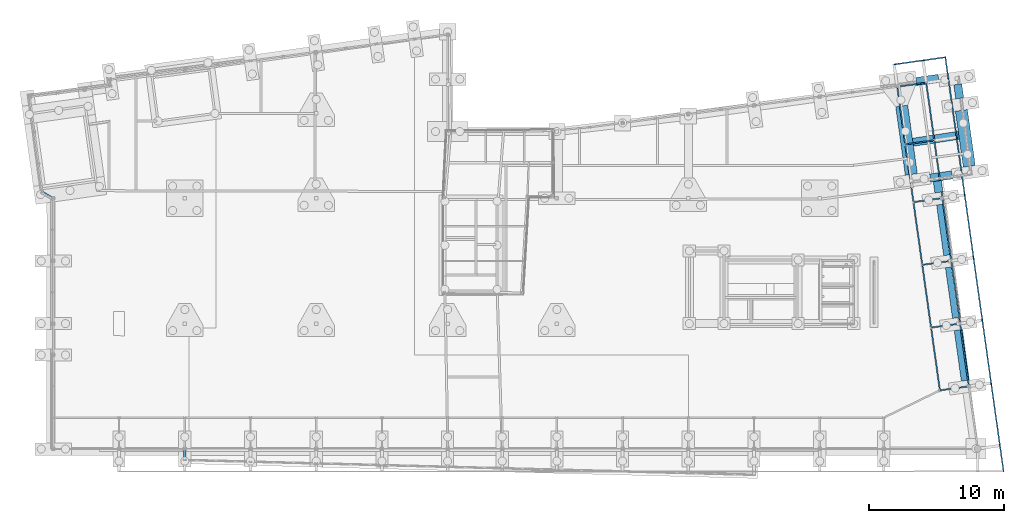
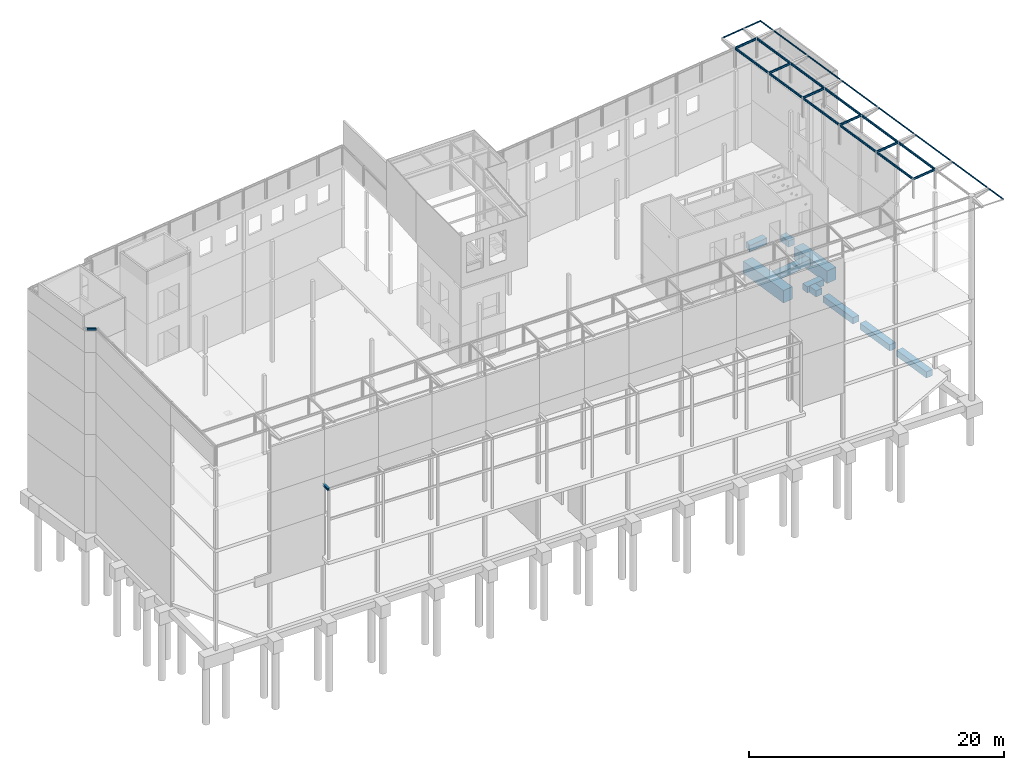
# One storey, part 65 of 82: 38 beams.
"""IFC2X3 building model written with IfcOpenShell, lengths in millimetres."""

from ifc_helpers import new_model, si_unit, frame, frame_2d, origin_with_axes, place, context, subcontext, project, spatial, polyline, rectangle, i_section, u_section, outline, extrude, boolean, clip, halfspace, material, type_object, element, save


model = new_model("IFC2X3")

# Units and contexts
model_context = context("Model", 3, precision=1e-05, world=origin_with_axes())
body_context = subcontext(model_context, "Body", "Model", "MODEL_VIEW")
ifc_project = project(units=[si_unit("LENGTHUNIT", "METRE", prefix="MILLI"), si_unit("AREAUNIT", "SQUARE_METRE"), si_unit("VOLUMEUNIT", "CUBIC_METRE"), si_unit("MASSUNIT", "GRAM", prefix="KILO"), si_unit("TIMEUNIT", "SECOND"), si_unit("PLANEANGLEUNIT", "RADIAN"), si_unit("SOLIDANGLEUNIT", "STERADIAN"), si_unit("THERMODYNAMICTEMPERATUREUNIT", "DEGREE_CELSIUS"), si_unit("LUMINOUSINTENSITYUNIT", "LUMEN")], contexts=[model_context])

# Site, building, storey
site_placement = place(None, origin_with_axes())
site = spatial("IfcSite", under=ifc_project, at=site_placement, Name="Undefined", CompositionType="ELEMENT")
building_placement = place(site_placement, origin_with_axes())
building = spatial("IfcBuilding", under=site, at=building_placement, Name="Undefined", CompositionType="ELEMENT")
storey_placement = place(building_placement, origin_with_axes())
storey = spatial("IfcBuildingStorey", under=building, at=storey_placement, Name="Undefined", CompositionType="ELEMENT", Elevation=0.0)

# Beams
ifc_material_1 = material(Name="STEEL/S275JR")
beam_type_1 = type_object("IfcBeamType", Name="IPE200", PredefinedType="NOTDEFINED")
for number, where, z_axis, x_axis, name in (
    (1, (67257.635058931, 9305.1416014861, 19025.0), (0.0, 0.0, 1.0), (-0.13917310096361, 0.990268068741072, 0.0), "POUTRE"),
    (2, (67911.748633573, 4650.88167839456, 19025.0), (0.0, 0.0, 1.0), (-0.13917310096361, 0.990268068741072, 0.0), "POUTRE"),
):
    element("IfcBeam", number, at=place(storey_placement, frame(where, z_axis=z_axis, x_axis=x_axis)), inside=storey, type_object=beam_type_1, material=ifc_material_1, Name=name, ObjectType="IPE200", context=body_context, shape_type="SweptSolid", body=[
        extrude(i_section(OverallWidth=100.0, OverallDepth=200.0, WebThickness=5.599999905, FlangeThickness=8.5, FilletRadius=12.0, at=frame_2d((5.17284206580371e-08, 4.49290382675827e-10), x_axis=(1.0, 0.0))), frame((4620.00451002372, 0.0, 0.0), z_axis=(-1.0, 0.0, 0.0), x_axis=(-2.77555756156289e-17, -1.0, 0.0)), (0.0, 0.0, 1.0), 4540.0),
    ])
for number, where, z_axis, x_axis, name in (
    (3, (65348.0399256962, 22892.6164616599, 19025.0), (0.0, 0.0, 1.0), (-0.13917310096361, 0.990268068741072, 0.0), "POUTRE"),
    (4, (63199.1574547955, 22590.6061705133, 19025.0), (0.0, 0.0, 1.0), (-0.13917310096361, 0.990268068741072, 0.0), "POUTRE"),
):
    element("IfcBeam", number, at=place(storey_placement, frame(where, z_axis=z_axis, x_axis=x_axis)), inside=storey, type_object=beam_type_1, material=ifc_material_1, Name=name, ObjectType="IPE200", context=body_context, shape_type="SweptSolid", body=[
        extrude(i_section(OverallWidth=100.0, OverallDepth=200.0, WebThickness=5.599999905, FlangeThickness=8.5, FilletRadius=12.0, at=frame_2d((5.17284206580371e-08, 4.49290382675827e-10), x_axis=(1.0, 0.0))), frame((4316.99774502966, 0.0, 0.0), z_axis=(-1.0, 0.0, 0.0), x_axis=(-2.77555756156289e-17, -1.0, 0.0)), (0.0, 0.0, 1.0), 4237.0),
    ])
beam_1_placement = place(storey_placement, frame((65348.0386537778, 22892.6117285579, 19025.0300000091), z_axis=(-1.36899999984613e-05, -1.92399999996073e-06, 0.999999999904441), x_axis=(-0.990268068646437, -0.13917310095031, -1.38249999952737e-05)))
element("IfcBeam", 5, at=beam_1_placement, inside=storey, type_object=beam_type_1, material=ifc_material_1, Name="POUTRE", ObjectType="IPE200", context=body_context, shape_type="SweptSolid", body=[
    extrude(i_section(OverallWidth=100.0, OverallDepth=200.0, WebThickness=5.599999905, FlangeThickness=8.5, FilletRadius=12.0, at=frame_2d((5.17284206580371e-08, 4.49290382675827e-10), x_axis=(1.0, 0.0))), frame((2166.00138246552, 1.75969470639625e-12, -3.63797513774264e-12), z_axis=(-1.0, 0.0, 0.0), x_axis=(-2.77555756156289e-17, -1.0, 0.0)), (0.0, 0.0, 1.0), 2162.0),
])
beam_2_placement = place(storey_placement, frame((64746.6741588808, 27171.5581242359, 19025.0300000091), z_axis=(-1.36899999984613e-05, -1.92399999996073e-06, 0.999999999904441), x_axis=(-0.990268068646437, -0.13917310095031, -1.38249999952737e-05)))
element("IfcBeam", 6, at=beam_2_placement, inside=storey, type_object=beam_type_1, material=ifc_material_1, Name="POUTRE", ObjectType="IPE200", context=body_context, shape_type="SweptSolid", body=[
    extrude(i_section(OverallWidth=100.0, OverallDepth=200.0, WebThickness=5.599999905, FlangeThickness=8.5, FilletRadius=12.0, at=frame_2d((5.17284206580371e-08, 4.49290382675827e-10), x_axis=(1.0, 0.0))), frame((2090.00138243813, -5.72141829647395e-14, -3.54060006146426e-18), z_axis=(-1.0, 0.0, 0.0), x_axis=(-2.77555756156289e-17, -1.0, 0.0)), (0.0, 0.0, 1.0), 2010.0),
])
beam_3_placement = place(storey_placement, frame((63800.5247376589, 18311.6556129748, 19025.0), z_axis=(0.0, 0.0, 1.0), x_axis=(-0.13917310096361, 0.990268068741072, 0.0)))
element("IfcBeam", 7, at=beam_3_placement, inside=storey, type_object=beam_type_1, material=ifc_material_1, Name="POUTRE", ObjectType="IPE200", context=body_context, shape_type="SweptSolid", body=[
    extrude(i_section(OverallWidth=100.0, OverallDepth=200.0, WebThickness=5.599999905, FlangeThickness=8.5, FilletRadius=12.0, at=frame_2d((5.17284206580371e-08, 4.49290382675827e-10), x_axis=(1.0, 0.0))), frame((4241.00225446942, 0.0, 0.0), z_axis=(-1.0, 0.0, 0.0), x_axis=(-2.77555756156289e-17, -1.0, 0.0)), (0.0, 0.0, 1.0), 4161.0),
])
beam_4_placement = place(storey_placement, frame((65949.4079097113, 18613.6614476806, 19025.0), z_axis=(0.0, 0.0, 1.0), x_axis=(-0.13917310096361, 0.990268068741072, 0.0)))
element("IfcBeam", 8, at=beam_4_placement, inside=storey, type_object=beam_type_1, material=ifc_material_1, Name="POUTRE", ObjectType="IPE200", context=body_context, shape_type="SweptSolid", body=[
    extrude(i_section(OverallWidth=100.0, OverallDepth=200.0, WebThickness=5.599999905, FlangeThickness=8.5, FilletRadius=12.0, at=frame_2d((5.17284206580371e-08, 4.49290382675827e-10), x_axis=(1.0, 0.0))), frame((4241.00676505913, 0.0, 0.0), z_axis=(-1.0, 0.0, 0.0), x_axis=(-2.77555756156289e-17, -1.0, 0.0)), (0.0, 0.0, 1.0), 4161.0),
])
beam_5_placement = place(storey_placement, frame((64454.6383121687, 13657.3956898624, 19025.0), z_axis=(0.0, 0.0, 1.0), x_axis=(-0.13917310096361, 0.990268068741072, 0.0)))
element("IfcBeam", 9, at=beam_5_placement, inside=storey, type_object=beam_type_1, material=ifc_material_1, Name="POUTRE", ObjectType="IPE200", context=body_context, shape_type="SweptSolid", body=[
    extrude(i_section(OverallWidth=100.0, OverallDepth=200.0, WebThickness=5.599999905, FlangeThickness=8.5, FilletRadius=12.0, at=frame_2d((5.17284206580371e-08, 4.49290382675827e-10), x_axis=(1.0, 0.0))), frame((4619.99999947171, 0.0, 0.0), z_axis=(-1.0, 0.0, 0.0), x_axis=(-2.77555756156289e-17, -1.0, 0.0)), (0.0, 0.0, 1.0), 4540.0),
])
beam_6_placement = place(storey_placement, frame((66603.5214842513, 13959.4015246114, 19025.0), z_axis=(0.0, 0.0, 1.0), x_axis=(-0.13917310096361, 0.990268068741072, 0.0)))
element("IfcBeam", 10, at=beam_6_placement, inside=storey, type_object=beam_type_1, material=ifc_material_1, Name="POUTRE", ObjectType="IPE200", context=body_context, shape_type="SweptSolid", body=[
    extrude(i_section(OverallWidth=100.0, OverallDepth=200.0, WebThickness=5.599999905, FlangeThickness=8.5, FilletRadius=12.0, at=frame_2d((5.17284206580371e-08, 4.49290382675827e-10), x_axis=(1.0, 0.0))), frame((4620.00451002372, 0.0, 0.0), z_axis=(-1.0, 0.0, 0.0), x_axis=(-2.77555756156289e-17, -1.0, 0.0)), (0.0, 0.0, 1.0), 4540.0),
])
beam_7_placement = place(storey_placement, frame((65108.7518868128, 9003.13576623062, 19025.0), z_axis=(0.0, 0.0, 1.0), x_axis=(-0.13917310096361, 0.990268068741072, 0.0)))
element("IfcBeam", 11, at=beam_7_placement, inside=storey, type_object=beam_type_1, material=ifc_material_1, Name="POUTRE", ObjectType="IPE200", context=body_context, shape_type="SweptSolid", body=[
    extrude(i_section(OverallWidth=100.0, OverallDepth=200.0, WebThickness=5.599999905, FlangeThickness=8.5, FilletRadius=12.0, at=frame_2d((5.17284206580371e-08, 4.49290382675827e-10), x_axis=(1.0, 0.0))), frame((4619.99999947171, 0.0, 0.0), z_axis=(-1.0, 0.0, 0.0), x_axis=(-2.77555756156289e-17, -1.0, 0.0)), (0.0, 0.0, 1.0), 4540.0),
])
beam_8_placement = place(storey_placement, frame((65949.4060100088, 18613.6611807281, 19025.0300000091), z_axis=(-1.36899999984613e-05, -1.92399999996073e-06, 0.999999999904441), x_axis=(-0.990268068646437, -0.13917310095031, -1.38249999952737e-05)))
element("IfcBeam", 12, at=beam_8_placement, inside=storey, type_object=beam_type_1, material=ifc_material_1, Name="POUTRE", ObjectType="IPE200", context=body_context, shape_type="SweptSolid", body=[
    extrude(i_section(OverallWidth=100.0, OverallDepth=200.0, WebThickness=5.599999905, FlangeThickness=8.5, FilletRadius=12.0, at=frame_2d((5.17284206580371e-08, 4.49290382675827e-10), x_axis=(1.0, 0.0))), frame((2166.00138246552, 1.75969470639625e-12, -3.63797513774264e-12), z_axis=(-1.0, 0.0, 0.0), x_axis=(-2.77555756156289e-17, -1.0, 0.0)), (0.0, 0.0, 1.0), 2166.0),
])
beam_9_placement = place(storey_placement, frame((66603.5201864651, 13959.401342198, 19025.0300000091), z_axis=(-1.36899999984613e-05, -1.92399999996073e-06, 0.999999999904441), x_axis=(-0.990268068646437, -0.13917310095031, -1.38249999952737e-05)))
element("IfcBeam", 13, at=beam_9_placement, inside=storey, type_object=beam_type_1, material=ifc_material_1, Name="POUTRE", ObjectType="IPE200", context=body_context, shape_type="SweptSolid", body=[
    extrude(i_section(OverallWidth=100.0, OverallDepth=200.0, WebThickness=5.599999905, FlangeThickness=8.5, FilletRadius=12.0, at=frame_2d((5.17284206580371e-08, 4.49290382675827e-10), x_axis=(1.0, 0.0))), frame((2166.00138246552, 1.75969470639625e-12, -3.63797513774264e-12), z_axis=(-1.0, 0.0, 0.0), x_axis=(-2.77555756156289e-17, -1.0, 0.0)), (0.0, 0.0, 1.0), 2162.0),
])
beam_10_placement = place(storey_placement, frame((67257.6343629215, 9305.14150366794, 19025.0300000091), z_axis=(-1.36899999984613e-05, -1.92399999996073e-06, 0.999999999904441), x_axis=(-0.990268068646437, -0.13917310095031, -1.38249999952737e-05)))
element("IfcBeam", 14, at=beam_10_placement, inside=storey, type_object=beam_type_1, material=ifc_material_1, Name="POUTRE", ObjectType="IPE200", context=body_context, shape_type="SweptSolid", body=[
    extrude(i_section(OverallWidth=100.0, OverallDepth=200.0, WebThickness=5.599999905, FlangeThickness=8.5, FilletRadius=12.0, at=frame_2d((5.17284206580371e-08, 4.49290382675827e-10), x_axis=(1.0, 0.0))), frame((2170.00000002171, 1.84481999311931e-12, 3.63797880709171e-12), z_axis=(-1.0, 0.0, 0.0), x_axis=(-2.77555756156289e-17, -1.0, 0.0)), (0.0, 0.0, 1.0), 2166.0),
])
beam_11_placement = place(storey_placement, frame((65762.8654614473, 4348.87584313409, 19025.0), z_axis=(0.0, 0.0, 1.0), x_axis=(-0.13917310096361, 0.990268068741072, 0.0)))
element("IfcBeam", 15, at=beam_11_placement, inside=storey, type_object=beam_type_1, material=ifc_material_1, Name="POUTRE", ObjectType="IPE200", context=body_context, shape_type="SweptSolid", body=[
    extrude(i_section(OverallWidth=100.0, OverallDepth=200.0, WebThickness=5.599999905, FlangeThickness=8.5, FilletRadius=12.0, at=frame_2d((5.17284206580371e-08, 4.49290382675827e-10), x_axis=(1.0, 0.0))), frame((4619.99999947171, 0.0, 0.0), z_axis=(-1.0, 0.0, 0.0), x_axis=(-2.77555756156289e-17, -1.0, 0.0)), (0.0, 0.0, 1.0), 4540.0),
])
beam_12_placement = place(storey_placement, frame((67911.7485393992, 4650.88166513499, 19025.0300000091), z_axis=(-1.36899999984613e-05, -1.92399999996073e-06, 0.999999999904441), x_axis=(-0.990268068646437, -0.13917310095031, -1.38249999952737e-05)))
element("IfcBeam", 16, at=beam_12_placement, inside=storey, type_object=beam_type_1, material=ifc_material_1, Name="POUTRE", ObjectType="IPE200", context=body_context, shape_type="SweptSolid", body=[
    extrude(i_section(OverallWidth=100.0, OverallDepth=200.0, WebThickness=5.599999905, FlangeThickness=8.5, FilletRadius=12.0, at=frame_2d((5.17284206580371e-08, 4.49290382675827e-10), x_axis=(1.0, 0.0))), frame((2166.00138246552, 1.75969470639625e-12, -3.63797513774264e-12), z_axis=(-1.0, 0.0, 0.0), x_axis=(-2.77555756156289e-17, -1.0, 0.0)), (0.0, 0.0, 1.0), 2162.0),
])
beam_13_placement = place(storey_placement, frame((-2.88855517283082e-08, 18600.0000000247, 19025.0), z_axis=(0.0, 0.0, 1.0), x_axis=(-0.859493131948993, 0.511147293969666, 0.0)))
element("IfcBeam", 17, at=beam_13_placement, inside=storey, type_object=beam_type_1, material=ifc_material_1, Name="POUTRE", ObjectType="IPE200", context=body_context, shape_type="Clipping", body=[
    clip(clip(extrude(i_section(OverallWidth=100.0, OverallDepth=200.0, WebThickness=5.599999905, FlangeThickness=8.5, FilletRadius=12.0, at=frame_2d((5.17284206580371e-08, 4.49290382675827e-10), x_axis=(1.0, 0.0))), frame((917.72227147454, 5.09438198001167e-14, 0.0), z_axis=(-1.0, 0.0, 0.0), x_axis=(-2.77555756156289e-17, -1.0, 0.0)), (0.0, 0.0, 1.0), 894.6), halfspace(frame((847.756262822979, -1.02772901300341e-08, -1000.0), z_axis=(-0.784393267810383, -0.620263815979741, 0.0), x_axis=(-0.620263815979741, 0.784393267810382, 0.0)), True)), halfspace(frame((93.0781750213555, -9.70067048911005e-09, -1000.0), z_axis=(0.859492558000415, 0.511148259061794, 0.0), x_axis=(0.511148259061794, -0.859492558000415, 0.0)), True)),
])
beam_type_2 = type_object("IfcBeamType", Name="UPE120", PredefinedType="NOTDEFINED")
beam_14_placement = place(storey_placement, frame((67603.1484828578, 18846.0911344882, 19065.029737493), z_axis=(0.0, -6.50000002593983e-08, -0.999999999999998), x_axis=(-0.13917310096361, 0.990268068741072, 0.0)))
element("IfcBeam", 18, at=beam_14_placement, inside=storey, type_object=beam_type_2, material=ifc_material_1, Name="POUTRE", ObjectType="UPE120", context=body_context, shape_type="CSG", body=[
    boolean("DIFFERENCE", boolean("DIFFERENCE", extrude(u_section(Depth=120.0, FlangeWidth=60.0, WebThickness=5.0, FlangeThickness=8.0, FilletRadius=12.0, at=frame_2d((5.17284206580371e-08, 4.49290382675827e-10), x_axis=(1.0, 0.0))), frame((4315.99759832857, -1.19792997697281e-13, 0.0), z_axis=(-1.0, 0.0, 0.0), x_axis=(-2.77555756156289e-17, -1.0, 0.0)), (0.0, 0.0, 1.0), 4311.0), extrude(rectangle(XDim=22.0, YDim=112.0, at=frame_2d((5.17284206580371e-08, 4.49290382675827e-10), x_axis=(1.0, 0.0))), frame((4261.99744668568, -31.0208146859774, -49.9999999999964), z_axis=(4.8895156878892e-06, 0.999999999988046, 0.0), x_axis=(0.0, 0.0, 1.0)), (0.0, 0.0, 1.0), 62.0)), extrude(rectangle(XDim=22.0, YDim=112.0, at=frame_2d((5.17284206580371e-08, 4.49290382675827e-10), x_axis=(1.0, 0.0))), frame((58.9954950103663, 31.0208146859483, -49.9999999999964), z_axis=(-4.8895156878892e-06, -0.999999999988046, 0.0), x_axis=(0.0, 0.0, 1.0)), (0.0, 0.0, 1.0), 62.0)),
])
beam_15_placement = place(storey_placement, frame((66197.7099518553, 29061.8990798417, 19065.0297374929), z_axis=(0.0, -6.50000002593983e-08, -0.999999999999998), x_axis=(-0.990268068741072, -0.13917310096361, 0.0)))
element("IfcBeam", 19, at=beam_15_placement, inside=storey, type_object=beam_type_2, material=ifc_material_1, Name="POUTRE", ObjectType="UPE120", context=body_context, shape_type="CSG", body=[
    boolean("DIFFERENCE", boolean("DIFFERENCE", extrude(u_section(Depth=120.0, FlangeWidth=60.0, WebThickness=5.0, FlangeThickness=8.0, FilletRadius=12.0, at=frame_2d((5.17284206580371e-08, 4.49290382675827e-10), x_axis=(1.0, 0.0))), frame((1695.00772984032, 4.72818128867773e-14, 3.63797880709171e-12), z_axis=(-1.0, 0.0, 0.0), x_axis=(-2.77555756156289e-17, -1.0, 0.0)), (0.0, 0.0, 1.0), 1703.7), extrude(rectangle(XDim=22.0, YDim=112.0, at=frame_2d((5.17284206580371e-08, 4.49290382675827e-10), x_axis=(1.0, 0.0))), frame((1641.00758701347, -31.0072834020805, -49.999999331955), z_axis=(4.8895156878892e-06, 0.999999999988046, 0.0), x_axis=(0.0, 0.0, 1.0)), (0.0, 0.0, 1.0), 62.0)), halfspace(frame((60.0000015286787, -30.0000000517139, 2.57714418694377e-08), z_axis=(-0.707106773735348, -0.707106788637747, 6.01824798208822e-10), x_axis=(0.0, -6.50000002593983e-08, -0.999999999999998)), False)),
])
beam_16_placement = place(storey_placement, frame((64514.246391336, 28825.3040873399, 19065.0297374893), z_axis=(0.0, -6.50000002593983e-08, -0.999999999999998), x_axis=(-0.990268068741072, -0.13917310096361, 0.0)))
element("IfcBeam", 20, at=beam_16_placement, inside=storey, type_object=beam_type_2, material=ifc_material_1, Name="POUTRE", ObjectType="UPE120", context=body_context, shape_type="CSG", body=[
    boolean("DIFFERENCE", boolean("DIFFERENCE", extrude(u_section(Depth=120.0, FlangeWidth=60.0, WebThickness=5.0, FlangeThickness=8.0, FilletRadius=12.0, at=frame_2d((5.17284206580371e-08, 4.49290382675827e-10), x_axis=(1.0, 0.0))), frame((2164.9993764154, 0.0, 3.63797880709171e-12), z_axis=(-1.0, 0.0, 0.0), x_axis=(-2.77555756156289e-17, -1.0, 0.0)), (0.0, 0.0, 1.0), 2160.0), extrude(rectangle(XDim=22.0, YDim=112.0, at=frame_2d((5.17284206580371e-08, 4.49290382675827e-10), x_axis=(1.0, 0.0))), frame((59.0000050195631, 31.0097019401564, -50.0000000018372), z_axis=(-4.8895156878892e-06, -0.999999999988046, 0.0), x_axis=(0.0, 0.0, 1.0)), (0.0, 0.0, 1.0), 62.0)), extrude(rectangle(XDim=22.0, YDim=112.0, at=frame_2d((5.17284206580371e-08, 4.49290382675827e-10), x_axis=(1.0, 0.0))), frame((2110.99923353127, -31.0097019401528, -50.0000000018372), z_axis=(4.8895156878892e-06, 0.999999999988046, 0.0), x_axis=(0.0, 0.0, 1.0)), (0.0, 0.0, 1.0), 62.0)),
])
beam_17_placement = place(storey_placement, frame((66400.4194941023, 27403.9839181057, 19065.0297374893), z_axis=(0.0, -6.50000002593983e-08, -0.999999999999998), x_axis=(-0.13917310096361, 0.990268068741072, 0.0)))
element("IfcBeam", 21, at=beam_17_placement, inside=storey, type_object=beam_type_2, material=ifc_material_1, Name="POUTRE", ObjectType="UPE120", context=body_context, shape_type="CSG", body=[
    boolean("DIFFERENCE", boolean("DIFFERENCE", extrude(u_section(Depth=120.0, FlangeWidth=60.0, WebThickness=5.0, FlangeThickness=8.0, FilletRadius=12.0, at=frame_2d((5.17284206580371e-08, 4.49290382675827e-10), x_axis=(1.0, 0.0))), frame((1715.82213215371, 4.7862426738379e-14, 0.0), z_axis=(-1.0, 0.0, 0.0), x_axis=(-2.77555756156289e-17, -1.0, 0.0)), (0.0, 0.0, 1.0), 1710.8), extrude(rectangle(XDim=22.0, YDim=112.0, at=frame_2d((5.17284206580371e-08, 4.49290382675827e-10), x_axis=(1.0, 0.0))), frame((59.0000046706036, 31.0075945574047, -50.0000008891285), z_axis=(-4.8895156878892e-06, -0.999999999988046, 0.0), x_axis=(0.0, 0.0, 1.0)), (0.0, 0.0, 1.0), 62.0)), halfspace(frame((1639.99216691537, -30.0000000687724, 1.60207855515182e-06), z_axis=(-0.707106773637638, 0.707106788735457, 7.98626706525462e-10), x_axis=(0.0, -6.50000002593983e-08, -0.999999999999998)), True)),
])
beam_18_placement = place(storey_placement, frame((67001.783987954, 23125.0375301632, 19065.029737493), z_axis=(0.0, -6.50000002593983e-08, -0.999999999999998), x_axis=(-0.13917310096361, 0.990268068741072, 0.0)))
element("IfcBeam", 22, at=beam_18_placement, inside=storey, type_object=beam_type_2, material=ifc_material_1, Name="POUTRE", ObjectType="UPE120", context=body_context, shape_type="CSG", body=[
    boolean("DIFFERENCE", boolean("DIFFERENCE", extrude(u_section(Depth=120.0, FlangeWidth=60.0, WebThickness=5.0, FlangeThickness=8.0, FilletRadius=12.0, at=frame_2d((5.17284206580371e-08, 4.49290382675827e-10), x_axis=(1.0, 0.0))), frame((4315.99759832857, -1.19792997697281e-13, 0.0), z_axis=(-1.0, 0.0, 0.0), x_axis=(-2.77555756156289e-17, -1.0, 0.0)), (0.0, 0.0, 1.0), 4311.0), extrude(rectangle(XDim=22.0, YDim=112.0, at=frame_2d((5.17284206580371e-08, 4.49290382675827e-10), x_axis=(1.0, 0.0))), frame((59.0000049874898, 31.0208146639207, -49.9999999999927), z_axis=(-4.8895156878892e-06, -0.999999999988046, 0.0), x_axis=(0.0, 0.0, 1.0)), (0.0, 0.0, 1.0), 62.0)), extrude(rectangle(XDim=22.0, YDim=112.0, at=frame_2d((5.17284206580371e-08, 4.49290382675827e-10), x_axis=(1.0, 0.0))), frame((4261.99744668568, -31.0208146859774, -49.9999999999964), z_axis=(4.8895156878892e-06, 0.999999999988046, 0.0), x_axis=(0.0, 0.0, 1.0)), (0.0, 0.0, 1.0), 62.0)),
])
for number, where, z_axis, x_axis, name in (
    (23, (68257.2655232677, 14191.8271249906, 19065.029737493), (0.0, -6.50000002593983e-08, -0.999999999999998), (-0.13917310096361, 0.990268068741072, 0.0), "POUTRE"),
    (24, (68911.3796993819, 9537.56728644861, 19065.0297374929), (0.0, -6.50000002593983e-08, -0.999999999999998), (-0.13917310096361, 0.990268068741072, 0.0), "POUTRE"),
):
    element("IfcBeam", number, at=place(storey_placement, frame(where, z_axis=z_axis, x_axis=x_axis)), inside=storey, type_object=beam_type_2, material=ifc_material_1, Name=name, ObjectType="UPE120", context=body_context, shape_type="CSG", body=[
        boolean("DIFFERENCE", boolean("DIFFERENCE", extrude(u_section(Depth=120.0, FlangeWidth=60.0, WebThickness=5.0, FlangeThickness=8.0, FilletRadius=12.0, at=frame_2d((5.17284206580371e-08, 4.49290382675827e-10), x_axis=(1.0, 0.0))), frame((4694.99987230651, 0.0, 3.63797880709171e-12), z_axis=(-1.0, 0.0, 0.0), x_axis=(-2.77555756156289e-17, -1.0, 0.0)), (0.0, 0.0, 1.0), 4690.0), extrude(rectangle(XDim=22.0, YDim=112.0, at=frame_2d((5.17284206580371e-08, 4.49290382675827e-10), x_axis=(1.0, 0.0))), frame((4640.99974034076, -31.0197279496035, -49.9999999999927), z_axis=(4.8895156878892e-06, 0.999999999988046, 0.0), x_axis=(0.0, 0.0, 1.0)), (0.0, 0.0, 1.0), 62.0)), extrude(rectangle(XDim=22.0, YDim=112.0, at=frame_2d((5.17284206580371e-08, 4.49290382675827e-10), x_axis=(1.0, 0.0))), frame((59.0000043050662, 31.019727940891, -49.9999999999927), z_axis=(-4.8895156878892e-06, -0.999999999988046, 0.0), x_axis=(0.0, 0.0, 1.0)), (0.0, 0.0, 1.0), 62.0)),
    ])
beam_19_placement = place(storey_placement, frame((70488.1707446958, -1681.77463427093, 19065.0), z_axis=(0.0, -6.50000002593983e-08, -0.999999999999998), x_axis=(-0.139177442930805, 0.990267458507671, 0.0)))
element("IfcBeam", 25, at=beam_19_placement, inside=storey, type_object=beam_type_2, material=ifc_material_1, Name="POUTRE", ObjectType="UPE120", context=body_context, shape_type="CSG", body=[
    boolean("DIFFERENCE", boolean("DIFFERENCE", extrude(u_section(Depth=120.0, FlangeWidth=60.0, WebThickness=5.0, FlangeThickness=8.0, FilletRadius=12.0, at=frame_2d((5.17284206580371e-08, 4.49290382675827e-10), x_axis=(1.0, 0.0))), frame((1950.63452019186, -1.45519152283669e-11, 0.0), z_axis=(-1.0, 0.0, 0.0), x_axis=(-2.77555756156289e-17, -1.0, 0.0)), (0.0, 0.0, 1.0), 1959.3), extrude(rectangle(XDim=22.0, YDim=112.0, at=frame_2d((5.17284206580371e-08, 4.49290382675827e-10), x_axis=(1.0, 0.0))), frame((1896.63452023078, -30.9999999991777, -50.0148687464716), z_axis=(0.0, 1.0, 0.0), x_axis=(0.0, 0.0, 1.0)), (0.0, 0.0, 1.0), 62.0)), halfspace(frame((1.45882950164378e-09, 30.0000000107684, 0.0), z_axis=(0.656057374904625, 0.75471101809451, 0.0), x_axis=(0.0, -6.50000002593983e-08, -0.999999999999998)), True)),
])
beam_20_placement = place(storey_placement, frame((69565.4938758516, 4883.30744788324, 19065.0297374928), z_axis=(0.0, -6.50000002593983e-08, -0.999999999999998), x_axis=(-0.13917310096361, 0.990268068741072, 0.0)))
element("IfcBeam", 26, at=beam_20_placement, inside=storey, type_object=beam_type_2, material=ifc_material_1, Name="POUTRE", ObjectType="UPE120", context=body_context, shape_type="CSG", body=[
    boolean("DIFFERENCE", boolean("DIFFERENCE", extrude(u_section(Depth=120.0, FlangeWidth=60.0, WebThickness=5.0, FlangeThickness=8.0, FilletRadius=12.0, at=frame_2d((5.17284206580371e-08, 4.49290382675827e-10), x_axis=(1.0, 0.0))), frame((4694.99987230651, 0.0, 3.63797880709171e-12), z_axis=(-1.0, 0.0, 0.0), x_axis=(-2.77555756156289e-17, -1.0, 0.0)), (0.0, 0.0, 1.0), 4690.0), extrude(rectangle(XDim=22.0, YDim=112.0, at=frame_2d((5.17284206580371e-08, 4.49290382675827e-10), x_axis=(1.0, 0.0))), frame((4640.99974034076, -31.0197279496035, -49.9999999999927), z_axis=(4.8895156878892e-06, 0.999999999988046, 0.0), x_axis=(0.0, 0.0, 1.0)), (0.0, 0.0, 1.0), 62.0)), extrude(rectangle(XDim=22.0, YDim=112.0, at=frame_2d((5.17284206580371e-08, 4.49290382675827e-10), x_axis=(1.0, 0.0))), frame((59.0000043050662, 31.019727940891, -49.9999999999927), z_axis=(-4.8895156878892e-06, -0.999999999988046, 0.0), x_axis=(0.0, 0.0, 1.0)), (0.0, 0.0, 1.0), 62.0)),
])
beam_21_placement = place(storey_placement, frame((70242.6363693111, 65.3419253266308, 19065.0000000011), z_axis=(-8.51000004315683e-07, 6.05299999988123e-06, -0.999999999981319), x_axis=(-0.139177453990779, 0.990267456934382, 6.11199999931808e-06)))
element("IfcBeam", 27, at=beam_21_placement, inside=storey, type_object=beam_type_2, material=ifc_material_1, Name="POUTRE", ObjectType="UPE120", context=body_context, shape_type="CSG", body=[
    boolean("DIFFERENCE", boolean("DIFFERENCE", extrude(u_section(Depth=120.0, FlangeWidth=60.0, WebThickness=5.0, FlangeThickness=8.0, FilletRadius=12.0, at=frame_2d((5.17284206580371e-08, 4.49290382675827e-10), x_axis=(1.0, 0.0))), frame((4860.31730628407, -1.19166042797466e-13, -4.11684889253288e-18), z_axis=(-1.0, 0.0, 0.0), x_axis=(-2.77555756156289e-17, -1.0, 0.0)), (0.0, 0.0, 1.0), 4664.0), extrude(rectangle(XDim=22.0, YDim=112.0, at=frame_2d((5.17284206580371e-08, 4.49290382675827e-10), x_axis=(1.0, 0.0))), frame((250.34930398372, 31.0000006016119, -50.027855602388), z_axis=(-2.77555756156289e-17, -1.0, 0.0), x_axis=(-6.11252893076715e-06, 2.76481135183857e-10, 0.999999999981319)), (0.0, 0.0, 1.0), 62.0)), extrude(rectangle(XDim=22.0, YDim=112.0, at=frame_2d((5.17284206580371e-08, 4.49290382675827e-10), x_axis=(1.0, 0.0))), frame((4806.31761229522, -31.000000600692, -50.0003456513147), z_axis=(0.0, 1.0, 0.0), x_axis=(-6.11252893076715e-06, 2.76481135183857e-10, 0.999999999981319)), (0.0, 0.0, 1.0), 62.0)),
])
beam_type_3 = type_object("IfcBeamType", Name="HEB200", PredefinedType="NOTDEFINED")
beam_22_placement = place(storey_placement, frame((9749.99999999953, -3.64545371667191e-09, 12025.0), z_axis=(0.0, 0.0, 1.0), x_axis=(-2.77555756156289e-17, -1.0, 0.0)))
element("IfcBeam", 28, at=beam_22_placement, inside=storey, type_object=beam_type_3, material=ifc_material_1, Name="POUTRE", ObjectType="HEB200", context=body_context, shape_type="SweptSolid", body=[
    extrude(i_section(OverallWidth=200.0, OverallDepth=200.0, WebThickness=9.0, FlangeThickness=15.0, FilletRadius=18.0, at=frame_2d((5.17284206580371e-08, 4.49290382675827e-10), x_axis=(1.0, 0.0))), frame((852.23135644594, 0.0, 0.0), z_axis=(-1.0, 0.0, 0.0), x_axis=(-2.77555756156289e-17, -1.0, 0.0)), (0.0, 0.0, 1.0), 852.2),
])
ifc_material_2 = material(Name="CONCRETE/C30/37")
beam_type_4 = type_object("IfcBeamType", Name="1200*900", PredefinedType="NOTDEFINED")
beam_23_placement = place(storey_placement, frame((67941.7230638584, 20963.8126484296, -1050.0), z_axis=(0.0, 0.0, 1.0), x_axis=(-0.139174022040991, 0.990267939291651, 0.0)))
element("IfcBeam", 29, at=beam_23_placement, inside=storey, type_object=beam_type_4, material=ifc_material_2, Name="LONGRINE", ObjectType="1200*900", context=body_context, shape_type="SweptSolid", body=[
    extrude(rectangle(XDim=900.0, YDim=1200.0, at=frame_2d((5.17284206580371e-08, 4.49290382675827e-10), x_axis=(1.0, 0.0))), frame((4194.35197541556, 1.16416653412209e-13, 0.0), z_axis=(-1.0, 0.0, 0.0), x_axis=(-2.77555756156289e-17, -1.0, 0.0)), (0.0, 0.0, 1.0), 4194.4),
])
beam_24_placement = place(storey_placement, frame((63706.5875064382, 19914.1819015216, -1050.00481961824), z_axis=(0.0, 0.0, 1.0), x_axis=(-0.139174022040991, 0.990267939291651, 0.0)))
element("IfcBeam", 30, at=beam_24_placement, inside=storey, type_object=beam_type_4, material=ifc_material_2, Name="LONGRINE", ObjectType="1200*900", context=body_context, shape_type="SweptSolid", body=[
    extrude(rectangle(XDim=900.0, YDim=1200.0, at=frame_2d((5.17284206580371e-08, 4.49290382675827e-10), x_axis=(1.0, 0.0))), frame((5581.03849876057, 1.45928856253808e-11, 0.0), z_axis=(-1.0, 0.0, 0.0), x_axis=(-2.77555756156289e-17, -1.0, 0.0)), (0.0, 0.0, 1.0), 5131.0),
])
beam_type_5 = type_object("IfcBeamType", Name="600*600", PredefinedType="NOTDEFINED")
beam_25_placement = place(storey_placement, frame((65528.6767905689, 20170.2591252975, -750.000000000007), z_axis=(0.0, 0.0, 1.0), x_axis=(0.139174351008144, -0.990267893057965, 0.0)))
element("IfcBeam", 31, at=beam_25_placement, inside=storey, type_object=beam_type_5, material=ifc_material_2, Name="LONGRINE", ObjectType="600*600", context=body_context, shape_type="SweptSolid", body=[
    extrude(rectangle(XDim=600.0, YDim=600.0, at=frame_2d((5.17284206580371e-08, 4.49290382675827e-10), x_axis=(1.0, 0.0))), frame((1149.9918583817, 0.0, 1.13686837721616e-13), z_axis=(-1.0, 0.0, 0.0), x_axis=(-2.77555756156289e-17, -1.0, 0.0)), (0.0, 0.0, 1.0), 850.0),
])
beam_26_placement = place(storey_placement, frame((67028.236745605, 27463.5703599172, -749.999999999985), z_axis=(0.0, 0.0, 1.0), x_axis=(0.13917310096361, -0.990268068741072, 0.0)))
element("IfcBeam", 32, at=beam_26_placement, inside=storey, type_object=beam_type_5, material=ifc_material_2, Name="LONGRINE", ObjectType="600*600", context=body_context, shape_type="SweptSolid", body=[
    extrude(rectangle(XDim=600.0, YDim=600.0, at=frame_2d((5.17284206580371e-08, 4.49290382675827e-10), x_axis=(1.0, 0.0))), frame((1469.28410869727, 0.0, 0.0), z_axis=(-1.0, 0.0, 0.0), x_axis=(-2.77555756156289e-17, -1.0, 0.0)), (0.0, 0.0, 1.0), 1047.7),
])
beam_27_placement = place(storey_placement, frame((65043.4488890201, 20102.0632778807, -750.000000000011), z_axis=(0.0, 0.0, 1.0), x_axis=(0.990268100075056, 0.139172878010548, 0.0)))
element("IfcBeam", 33, at=beam_27_placement, inside=storey, type_object=beam_type_5, material=ifc_material_2, Name="LONGRINE", ObjectType="600*600", context=body_context, shape_type="SweptSolid", body=[
    extrude(rectangle(XDim=600.0, YDim=600.0, at=frame_2d((5.17284206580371e-08, 4.49290382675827e-10), x_axis=(1.0, 0.0))), frame((1640.00379336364, -4.55192492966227e-14, 0.0), z_axis=(-1.0, 0.0, 0.0), x_axis=(-2.77555756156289e-17, -1.0, 0.0)), (0.0, 0.0, 1.0), 1640.0),
])
beam_28_placement = place(storey_placement, frame((63262.9965351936, 22676.0025344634, -750.003732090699), z_axis=(0.0, 0.0, 1.0), x_axis=(0.988632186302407, 0.150354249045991, 8.60000000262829e-07)))
element("IfcBeam", 34, at=beam_28_placement, inside=storey, type_object=beam_type_5, material=ifc_material_2, Name="LONGRINE", ObjectType="600*600", context=body_context, shape_type="Clipping", body=[
    clip(clip(extrude(rectangle(XDim=600.0, YDim=600.0, at=frame_2d((5.17284206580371e-08, 4.49290382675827e-10), x_axis=(1.0, 0.0))), frame((4118.77259327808, -3.31819103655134e-14, 1.13686837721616e-13), z_axis=(-1.0, 0.0, 0.0), x_axis=(-2.77555756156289e-17, -1.0, 0.0)), (0.0, 0.0, 1.0), 3787.5), halfspace(frame((3945.15151038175, -7.29596649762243e-08, -999.999999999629), z_axis=(-0.999936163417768, 0.0112990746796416, 8.59681193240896e-07), x_axis=(0.0112990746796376, 0.999936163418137, -9.44966223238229e-09)), True)), halfspace(frame((504.931845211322, -6.49270077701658e-08, -999.999999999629), z_axis=(0.999936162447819, -0.0112991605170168, -8.59681199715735e-07), x_axis=(-0.0112991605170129, -0.999936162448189, 9.44973590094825e-09)), True)),
])
beam_29_placement = place(storey_placement, frame((62700.0817514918, 27075.7992958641, -750.000000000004), z_axis=(0.0, 0.0, 1.0), x_axis=(0.990268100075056, 0.139172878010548, 0.0)))
element("IfcBeam", 35, at=beam_29_placement, inside=storey, type_object=beam_type_5, material=ifc_material_2, Name="LONGRINE", ObjectType="600*600", context=body_context, shape_type="CSG", body=[
    boolean("DIFFERENCE", extrude(rectangle(XDim=600.0, YDim=600.0, at=frame_2d((5.17284206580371e-08, 4.49290382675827e-10), x_axis=(1.0, 0.0))), frame((2989.99891341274, 0.0, 1.13686837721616e-13), z_axis=(-1.0, 0.0, 0.0), x_axis=(-2.77555756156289e-17, -1.0, 0.0)), (0.0, 0.0, 1.0), 2990.0), extrude(outline(polyline([(5.17284206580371e-08, 4.49290382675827e-10), (2700.00000002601, 4.04543243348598e-09), (2700.000000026, 849.999999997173), (1800.00000002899, 2458.80004881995), (900.000000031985, 2458.80004881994), (0.0774713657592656, 850.138488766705), (5.17284206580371e-08, 4.49290382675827e-10)])), frame((1350.00643567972, 807.367616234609, -900.001461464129), z_axis=(0.0, 0.0, 1.0), x_axis=(-0.999999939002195, 0.00034927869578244, 0.0)), (0.0, 0.0, 1.0), 1200.0)),
])
beam_30_placement = place(storey_placement, frame((66405.6241990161, 13933.7139436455, -750.000000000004), z_axis=(0.0, 0.0, 1.0), x_axis=(-0.139267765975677, 0.990254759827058, 0.0)))
element("IfcBeam", 36, at=beam_30_placement, inside=storey, type_object=beam_type_5, material=ifc_material_2, Name="LONGRINE", ObjectType="600*600", context=body_context, shape_type="SweptSolid", body=[
    extrude(rectangle(XDim=600.0, YDim=600.0, at=frame_2d((5.17284206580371e-08, 4.49290382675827e-10), x_axis=(1.0, 0.0))), frame((4247.90720390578, -1.17903109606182e-13, 0.0), z_axis=(-1.0, 0.0, 0.0), x_axis=(-2.77555756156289e-17, -1.0, 0.0)), (0.0, 0.0, 1.0), 3800.0),
])
beam_31_placement = place(storey_placement, frame((67058.0388209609, 9288.25221082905, -750.000000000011), z_axis=(0.0, 0.0, 1.0), x_axis=(-0.139076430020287, 0.990281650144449, 0.0)))
element("IfcBeam", 37, at=beam_31_placement, inside=storey, type_object=beam_type_5, material=ifc_material_2, Name="LONGRINE", ObjectType="600*600", context=body_context, shape_type="SweptSolid", body=[
    extrude(rectangle(XDim=600.0, YDim=600.0, at=frame_2d((5.17284206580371e-08, 4.49290382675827e-10), x_axis=(1.0, 0.0))), frame((4238.94511759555, 0.0, 0.0), z_axis=(-1.0, 0.0, 0.0), x_axis=(-2.77555756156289e-17, -1.0, 0.0)), (0.0, 0.0, 1.0), 3800.0),
])
beam_32_placement = place(storey_placement, frame((67710.9215724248, 4642.79262635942, -750.000000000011), z_axis=(0.0, 0.0, 1.0), x_axis=(-0.139174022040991, 0.990267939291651, 0.0)))
element("IfcBeam", 38, at=beam_32_placement, inside=storey, type_object=beam_type_5, material=ifc_material_2, Name="LONGRINE", ObjectType="600*600", context=body_context, shape_type="SweptSolid", body=[
    extrude(rectangle(XDim=600.0, YDim=600.0, at=frame_2d((5.17284206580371e-08, 4.49290382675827e-10), x_axis=(1.0, 0.0))), frame((4230.06286893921, 1.17407829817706e-13, 0.0), z_axis=(-1.0, 0.0, 0.0), x_axis=(-2.77555756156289e-17, -1.0, 0.0)), (0.0, 0.0, 1.0), 3800.0),
])

save(model, "model.ifc")
